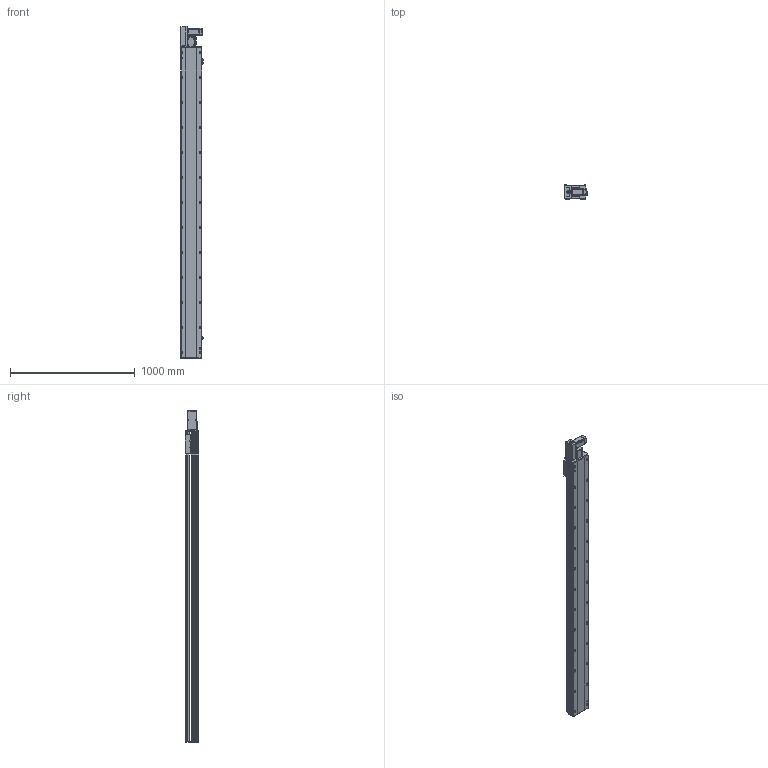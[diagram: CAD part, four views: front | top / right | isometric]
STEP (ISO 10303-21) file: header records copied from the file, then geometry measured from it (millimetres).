
FILE_DESCRIPTION (( 'STEP AP214' ), '1' );
FILE_NAME ('TPT17M-L40-2200-L-T40-C4.STEP', '2023-03-24T03:40:18', ( '' ), ( '' ), 'SwSTEP 2.0', 'SolidWorks 2020', '' );
FILE_SCHEMA (( 'AUTOMOTIVE_DESIGN' ));
Length unit declared in the file: millimetre
Products named in the file (11): TPT17M-L40-2200-L-T40-C4; 葩璃 pm-t65-672^TPT17M-L40-L-T40-C4; 葩璃 TPT17-L-002 奻裔MZ-170-05^TPT17M-L40-L-T40-C4; 葩璃 (2) TPT14-L-009 萇儂啣^TPT17M-L40-L-T40-C4_400W; 葩璃 TPT17-L-005 賑釱MZ-170-07^TPT17M-L40-L-T40-C4; hex nuts, style 1-grades ab gb_GB_FASTENER_NUT_SNAB1 M3-N; hexagon head bolts-full thread gb_GB_FASTENER_BOLT_STBAB A M5X16-N; 葩璃 TPT17-L-001 菁釱MZ-170-01^TPT17M-L40-L-T40-C4; 葩璃 TPT17-L-007 々湍釱MZ-169x88^TPT17M-L40-L-T40-C4_TPT17M; 葩璃 侂狟400W^TPT17M-L40-L-T40-C4; hexagon socket head cap screws gb_GB_FASTENER_SCREWS_HSHCS M3X6-N
Assembly tree (22 placements, depth 2):
  TPT17M-L40-2200-L-T40-C4
    葩璃 TPT17-L-001 菁釱MZ-170-01^TPT17M-L40-L-T40-C4
    葩璃 TPT17-L-002 奻裔MZ-170-05^TPT17M-L40-L-T40-C4
    葩璃 TPT17-L-005 賑釱MZ-170-07^TPT17M-L40-L-T40-C4
    葩璃 TPT17-L-007 々湍釱MZ-169x88^TPT17M-L40-L-T40-C4_TPT17M
    葩璃 (2) TPT14-L-009 萇儂啣^TPT17M-L40-L-T40-C4_400W
    葩璃 pm-t65-672^TPT17M-L40-L-T40-C4  x3
    葩璃 侂狟400W^TPT17M-L40-L-T40-C4
    hexagon socket head cap screws gb_GB_FASTENER_SCREWS_HSHCS M3X6-N  x6
    hex nuts, style 1-grades ab gb_GB_FASTENER_NUT_SNAB1 M3-N  x6
    hexagon head bolts-full thread gb_GB_FASTENER_BOLT_STBAB A M5X16-N
Bounding box: 183.7 x 108 x 2656.65 mm (x, y, z)
Volume: 26255781.6 mm3; surface area: 2545621.5 mm2
Topology: 30 solids, 30 shells, 1829 faces, 4682 edges, 2954 vertices
Faces by surface type: plane 933, cylinder 620, cone 238, bspline 26, torus 12
Entity records: 44921 total; most frequent: CARTESIAN_POINT 8468, DIRECTION 7405, ORIENTED_EDGE 6912, EDGE_CURVE 3456, AXIS2_PLACEMENT_3D 2654, VERTEX_POINT 2245, LINE 2097, VECTOR 2097
